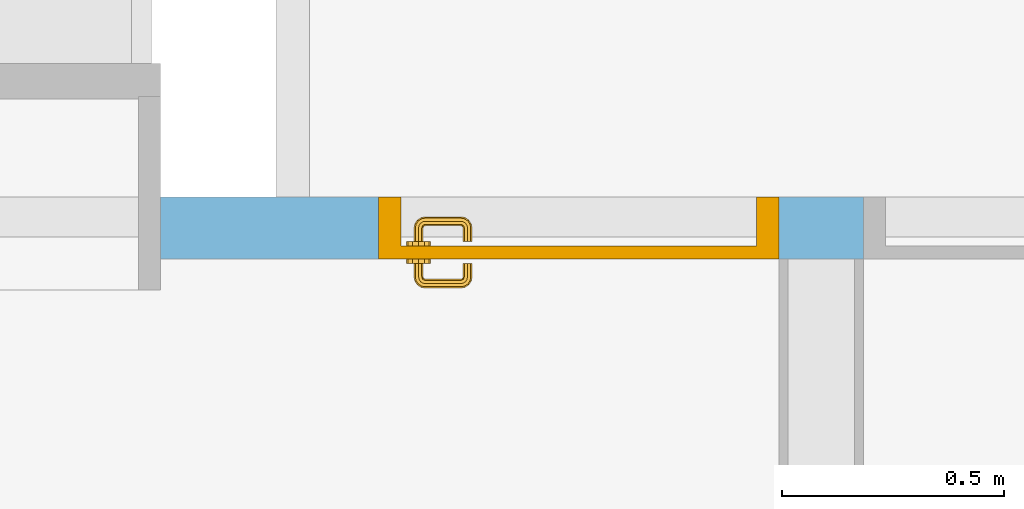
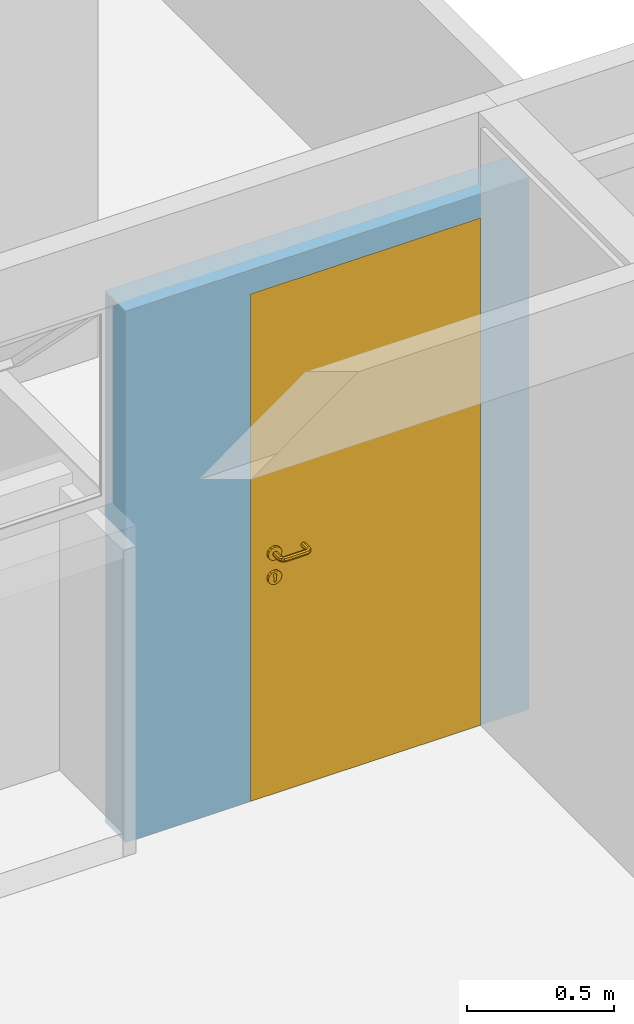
# One storey, part 8 of 22: 1 door, 1 opening, plus 1 element that does not belong to this part.
"""IFC2X3 building model written with IfcOpenShell, lengths in millimetres."""

from ifc_helpers import new_model, si_unit, direction, frame, frame_2d, origin_with_axes, origin_2d_with_axis, place, context, subcontext, project, spatial, polyline, rectangle, outline, extrude, open_shell, faceted_brep, surface_model, source, transform, mapped, material, layer, layer_set, layer_usage, type_object, type_shapes, element, fill, save


model = new_model("IFC2X3")

# Units and contexts
model_context = context("Model", 3, precision=1e-05, world=origin_with_axes(), true_north=direction((0.0, 1.0)))
body_context = subcontext(model_context, "Body", "Model", "MODEL_VIEW")
ifc_project = project(units=[si_unit("LENGTHUNIT", "METRE", prefix="MILLI"), si_unit("AREAUNIT", "SQUARE_METRE"), si_unit("VOLUMEUNIT", "CUBIC_METRE"), si_unit("PLANEANGLEUNIT", "RADIAN"), si_unit("TIMEUNIT", "SECOND"), si_unit("MASSUNIT", "GRAM")], contexts=[model_context])

# Site, building, storey
site_placement = place(None, origin_with_axes())
site = spatial("IfcSite", under=ifc_project, at=site_placement, Name="Site", CompositionType="ELEMENT")
building_placement = place(site_placement, origin_with_axes())
building = spatial("IfcBuilding", under=site, at=building_placement, Name="Construção", CompositionType="COMPLEX")
storey_placement = place(building_placement, frame((0.0, 0.0, 2650.0), z_axis=(0.0, 0.0, 1.0), x_axis=(1.0, 0.0, 0.0)))
storey = spatial("IfcBuildingStorey", under=building, at=storey_placement, Name="Segundo Pavimento", CompositionType="COMPLEX", Elevation=2650.0)

# Wall, opening, door
ifc_material = material(Name="GENÉRICO - VEDAÇÃO EXTERNA")
ifc_layer = layer(ifc_material, 140.0)
ifc_layer_set = layer_set([ifc_layer], Name="GENÉRICO - VEDAÇÃO EXTERNA 140")
ifc_layer_usage = layer_usage(ifc_layer_set, "AXIS2", "POSITIVE", 0.0)
wall_type = type_object("IfcWallType", Name="GENÉRICO - VEDAÇÃO EXTERNA 140", PredefinedType="STANDARD", material=ifc_layer_set)
wall_placement = place(storey_placement, frame((5900.0, 8125.0, 0.0), z_axis=(0.0, 0.0, 1.0), x_axis=(1.0, 0.0, 0.0)))
wall = element("IfcWallStandardCase", 1, at=wall_placement, inside=storey, type_object=wall_type, material=ifc_layer_usage, Name="APTO5-PAREDE-004", context=body_context, shape_type="SweptSolid", body=[
    extrude(rectangle(XDim=1580.0, YDim=140.0, at=origin_2d_with_axis()), frame((790.0, 70.0, 0.0), z_axis=(0.0, 0.0, 1.0), x_axis=(1.0, 0.0, 0.0)), (0.0, 0.0, 1.0), 2200.0),
])
opening_placement = place(wall_placement, frame((490.0, 0.0, 0.0), z_axis=(0.0, 0.0, 1.0), x_axis=(1.0, 0.0, 0.0)))
opening = element("IfcOpeningElement", 2, at=opening_placement, cuts=wall, ObjectType="Opening", context=body_context, shape_type="SweptSolid", body=[
    extrude(outline(polyline([(450.0, 1050.0), (450.0, -1050.0), (-450.0, -1050.0), (-450.0, 1050.0), (450.0, 1050.0)])), frame((450.0, -140.0, 1050.0), z_axis=(0.0, 1.0, 0.0), x_axis=(1.0, 0.0, 0.0)), (0.0, 0.0, 1.0), 420.0),
])
door_style = type_object("IfcDoorStyle", Name="Porta 25", ConstructionType="NOTDEFINED", OperationType="SINGLE_SWING_LEFT", ParameterTakesPrecedence=False, Sizeable=False)
shared_shape_1 = source(origin_with_axes(), body_context, "Body", "SolidModel", [
    extrude(outline(polyline([(9.999999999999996, -26.66666666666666), (9.999999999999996, -56.66666666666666), (-30.0, -56.66666666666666), (-30.0, 83.33333333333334), (20.0, 83.33333333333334), (20.0, -26.66666666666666), (9.999999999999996, -26.66666666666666)])), frame((30.0, 0.0, -56.66666666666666), z_axis=(0.0, 1.0, 0.0), x_axis=(1.0, 0.0, 0.0)), (0.0, 0.0, 1.0), 2050.0),
])
shared_shape_2 = source(origin_with_axes(), body_context, "Body", "SolidModel", [
    extrude(outline(polyline([(-10.0, -26.66666666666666), (-20.0, -26.66666666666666), (-20.0, 83.33333333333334), (30.0, 83.33333333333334), (30.0, -56.66666666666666), (-10.0, -56.66666666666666), (-10.0, -26.66666666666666)])), frame((870.0, 0.0, -56.66666666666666), z_axis=(0.0, 1.0, 0.0), x_axis=(1.0, 0.0, 0.0)), (0.0, 0.0, 1.0), 2050.0),
])
shared_shape_3 = source(origin_with_axes(), body_context, "Body", "SolidModel", [
    faceted_brep([(900.0, 2050.0, -140.0), (0.0, 2050.0, -140.0), (0.0, 2100.0, -140.0), (900.0, 2100.0, -140.0), (859.9999999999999, 2050.0, -29.99999999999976), (859.9999999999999, 2060.0, -29.99999999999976), (39.99999999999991, 2060.0, -29.99999999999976), (39.99999999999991, 2050.0, -29.99999999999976), (39.99999999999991, 2050.0, 0.0), (39.99999999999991, 2060.0, 0.0), (0.0, 2050.0, 0.0), (0.0, 2100.0, 0.0), (899.9999999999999, 2100.0, 0.0), (899.9999999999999, 2050.0, 0.0), (859.9999999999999, 2050.0, 0.0), (859.9999999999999, 2060.0, 0.0)], [[[0, 1, 2, 3]], [[4, 5, 6, 7]], [[8, 7, 6, 9]], [[10, 11, 2, 1]], [[11, 12, 3, 2]], [[12, 13, 0, 3]], [[4, 7, 8, 10, 1, 0, 13, 14]], [[15, 5, 4, 14]], [[9, 6, 5, 15]], [[9, 15, 14, 13, 12, 11, 10, 8]]]),
])
shared_shape_4 = source(origin_with_axes(), body_context, "Body", "SolidModel", [
    extrude(outline(polyline([(0.0, 27.00000000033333), (13.49999999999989, 23.38268590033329), (23.38268590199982, 13.50000000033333), (26.99999999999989, 3.333298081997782e-10), (23.38268590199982, -13.49999999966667), (13.49999999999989, -23.38268590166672), (0.0, -26.99999999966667), (-13.50000000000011, -23.38268590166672), (-23.38268590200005, -13.49999999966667), (-27.0, 3.333298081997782e-10), (-23.38268590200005, 13.50000000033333), (-13.50000000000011, 23.38268590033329), (0.0, 27.00000000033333)])), frame((90.0, 999.9999999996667, -40.0), z_axis=(0.0, 0.0, 1.0), x_axis=(1.0, 0.0, 0.0)), (0.0, 0.0, 1.0), 10.0),
])
shared_shape_5 = source(origin_with_axes(), body_context, "Body", "SolidModel", [
    faceted_brep([(63.0, 900.0, -30.0), (63.0, 900.0, -40.0), (66.61731409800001, 886.5, -40.0), (66.61731409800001, 886.5, -30.0), (64.0, 900.0, -39.0), (64.0, 900.0, -30.0), (67.48333950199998, 887.0, -30.0), (67.48333950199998, 887.0, -39.0), (67.48333950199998, 913.0, -39.0), (67.48333950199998, 913.0, -30.0), (77.0, 877.483339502, -30.0), (77.0, 877.483339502, -39.0), (77.0, 922.516660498, -39.0), (77.0, 922.516660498, -30.0), (76.5, 876.617314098, -40.0), (76.5, 876.617314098, -30.0), (66.61731409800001, 913.5, -30.0), (66.61731409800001, 913.5, -40.0), (90.0, 874.0, -30.0), (90.0, 874.0, -39.0), (103.0, 922.516660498, -30.0), (112.516660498, 913.0, -30.0), (116.0, 900.0, -30.0), (112.516660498, 887.0, -30.0), (103.0, 877.483339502, -30.0), (90.0, 926.0, -30.0), (117.0, 900.0, -30.0), (113.382685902, 913.5, -30.0), (103.5, 923.382685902, -30.0), (90.0, 927.0, -30.0), (76.5, 923.382685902, -30.0), (90.0, 873.0, -30.0), (103.5, 876.617314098, -30.0), (113.382685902, 886.5, -30.0), (90.0, 873.0, -40.0), (112.516660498, 887.0, -39.0), (116.0, 900.0, -39.0), (112.516660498, 913.0, -39.0), (103.5, 876.617314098, -40.0), (103.0, 877.483339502, -39.0), (113.382685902, 886.5, -40.0), (117.0, 900.0, -40.0), (90.0, 926.0, -39.0), (86.46446609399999, 883.964466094, -40.0), (85.0, 887.5, -40.0), (85.0, 887.5, -39.0), (86.46446609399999, 883.964466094, -39.0), (90.0, 882.5, -40.0), (90.0, 882.5, -39.0), (76.5, 923.382685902, -40.0), (90.0, 927.0, -40.0), (85.0, 904.4, -39.0), (85.0, 904.4, -40.0), (82.53216922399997, 909.692280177, -40.0), (82.53216922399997, 909.692280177, -39.0), (103.0, 922.516660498, -39.0), (103.5, 923.382685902, -40.0), (95.0, 887.5, -40.0), (93.53553390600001, 883.964466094, -40.0), (93.53553390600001, 883.964466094, -39.0), (95.0, 887.5, -39.0), (113.382685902, 913.5, -40.0), (84.62481768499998, 915.143815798, -40.0), (84.62481768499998, 915.143815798, -39.0), (83.279754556, 911.639806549, -39.0), (83.279754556, 911.639806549, -40.0), (90.0, 917.425445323, -40.0), (90.0, 917.425445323, -39.0), (97.46783077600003, 909.692280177, -39.0), (95.0, 904.4, -39.0), (95.37518231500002, 915.143815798, -39.0), (96.720245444, 911.639806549, -39.0), (95.37518231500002, 915.143815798, -40.0), (95.0, 904.4, -40.0), (97.46783077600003, 909.692280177, -40.0), (96.720245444, 911.639806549, -40.0)], [[[0, 1, 2, 3]], [[4, 5, 6, 7]], [[8, 9, 5, 4]], [[7, 6, 10, 11]], [[12, 13, 9, 8]], [[3, 2, 14, 15]], [[16, 17, 1, 0]], [[11, 10, 18, 19]], [[20, 21, 22, 23, 24, 18, 10, 6, 5, 9, 13, 25], [26, 27, 28, 29, 30, 16, 0, 3, 15, 31, 32, 33]], [[15, 14, 34, 31]], [[35, 23, 22, 36]], [[36, 22, 21, 37]], [[31, 34, 38, 32]], [[39, 24, 23, 35]], [[32, 38, 40, 33]], [[33, 40, 41, 26]], [[42, 25, 13, 12]], [[43, 44, 45, 46]], [[47, 43, 46, 48]], [[30, 49, 17, 16]], [[29, 50, 49, 30]], [[19, 18, 24, 39]], [[51, 45, 44, 52]], [[53, 54, 51, 52]], [[37, 21, 20, 55]], [[28, 56, 50, 29]], [[57, 58, 59, 60]], [[58, 47, 48, 59]], [[55, 20, 25, 42]], [[26, 41, 61, 27]], [[62, 63, 64, 54, 53, 65]], [[66, 67, 63, 62]], [[27, 61, 56, 28]], [[36, 37, 55, 42, 12, 8, 4, 7, 11, 19, 39, 35], [68, 69, 60, 59, 48, 46, 45, 51, 54, 64, 63, 67, 70, 71]], [[72, 70, 67, 66]], [[73, 69, 68, 74]], [[73, 57, 60, 69]], [[74, 68, 71, 70, 72, 75]], [[50, 56, 61, 41, 40, 38, 34, 14, 2, 1, 17, 49], [74, 75, 72, 66, 62, 65, 53, 52, 44, 43, 47, 58, 57, 73]]], outer=[[True], [True], [True], [True], [True], [True], [True], [True], [False, True], [True], [True], [True], [True], [True], [True], [True], [True], [True], [True], [True], [True], [True], [True], [True], [True], [True], [True], [True], [True], [True], [True], [True], [True], [True, False], [True], [True], [True], [True], [True, False]]),
])
shared_shape_6 = source(origin_with_axes(), body_context, "Body", "SurfaceModel", [
    surface_model("IfcShellBasedSurfaceModel", [(192.928932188, 992.928932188, -69.303560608), (192.928932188, 992.928932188, -40.0), (190.0, 1000.0, -40.0), (190.0, 1000.0, -69.0150859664), (192.928932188, 1007.07106781, -40.0), (192.928932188, 1007.07106781, -69.303560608), (200.0, 1010.0, -40.0), (200.0, 1010.0, -70.0), (192.197392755, 1007.07106781, -72.9812576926), (198.858192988, 1010.0, -75.74025148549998), (207.071067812, 1007.07106781, -70.696439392), (205.518993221, 1007.07106781, -78.49924527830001), (186.838445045, 1000.0, -74.43839896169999), (188.397003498, 1000.0, -73.39700349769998), (190.508645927, 1007.07106781, -75.5086459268), (187.981257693, 1007.07106781, -77.19739275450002), (195.606601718, 1010.0, -80.6066017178), (189.438398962, 1000.0, -71.83844504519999), (187.981257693, 992.928932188, -77.19739275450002), (190.508645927, 992.928932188, -75.5086459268), (192.197392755, 992.928932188, -72.9812576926), (200.0, 990.0, -70.0), (200.0, 990.0, -40.0), (198.858192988, 990.0, -75.74025148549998), (207.071067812, 1007.07106781, -40.0), (207.071067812, 992.928932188, -70.696439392), (207.071067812, 992.928932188, -40.0), (210.0, 1000.0, -40.0), (210.0, 1000.0, -70.9849140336), (195.606601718, 990.0, -80.6066017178), (205.518993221, 992.928932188, -78.49924527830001), (208.277987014, 1000.0, -79.6420579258), (105.696439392, 992.928932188, -77.92893218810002), (184.303560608, 992.928932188, -77.92893218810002), (184.015085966, 1000.0, -75.0), (105.984914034, 1000.0, -75.0), (184.303560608, 1007.07106781, -77.92893218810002), (190.740251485, 1010.0, -83.8581929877), (185.0, 1010.0, -85.0), (105.696439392, 1007.07106781, -77.92893218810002), (105.0, 1010.0, -85.0), (193.499245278, 1007.07106781, -90.51899322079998), (185.696439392, 1007.07106781, -92.07106781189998), (200.704557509, 1007.07106781, -85.70455750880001), (202.816199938, 1000.0, -87.8161999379), (200.704557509, 992.928932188, -85.70455750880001), (194.642057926, 1000.0, -93.2779870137), (190.740251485, 990.0, -83.8581929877), (103.161554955, 1000.0, -74.43839896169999), (102.018742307, 1007.07106781, -77.19739275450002), (185.0, 990.0, -85.0), (193.499245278, 992.928932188, -90.51899322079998), (102.018742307, 992.928932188, -77.19739275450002), (96.50075472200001, 992.928932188, -90.51899322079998), (104.303560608, 992.928932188, -92.07106781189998), (105.0, 990.0, -85.0), (99.25974851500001, 990.0, -83.8581929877), (185.696439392, 992.928932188, -92.07106781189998), (185.984914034, 1000.0, -95.0), (104.015085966, 1000.0, -95.0), (104.303560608, 1007.07106781, -92.07106781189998), (96.50075472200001, 1007.07106781, -90.51899322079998), (95.357942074, 1000.0, -93.2779870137), (99.25974851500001, 1010.0, -83.8581929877), (101.602996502, 1000.0, -73.39700349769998), (99.491354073, 1007.07106781, -75.5086459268), (94.39339828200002, 1010.0, -80.6066017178), (100.561601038, 1000.0, -71.83844504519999), (97.80260724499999, 1007.07106781, -72.9812576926), (99.491354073, 992.928932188, -75.5086459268), (97.80260724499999, 992.928932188, -72.9812576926), (94.39339828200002, 990.0, -80.6066017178), (89.29544249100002, 1007.07106781, -85.70455750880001), (91.14180701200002, 1010.0, -75.74025148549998), (87.18380006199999, 1000.0, -87.8161999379), (89.29544249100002, 992.928932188, -85.70455750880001), (84.48100677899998, 1007.07106781, -78.49924527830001), (81.72201298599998, 1000.0, -79.6420579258), (97.07106781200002, 1007.07106781, -69.303560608), (90.0, 1010.0, -70.0), (100.0, 1000.0, -69.0150859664), (84.48100677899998, 992.928932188, -78.49924527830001), (91.14180701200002, 990.0, -75.74025148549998), (100.0, 1000.0, -40.0), (97.07106781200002, 1007.07106781, -40.0), (97.07106781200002, 992.928932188, -69.303560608), (97.07106781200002, 992.928932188, -40.0), (90.0, 990.0, -70.0), (90.0, 990.0, -40.0), (82.92893218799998, 992.928932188, -70.696439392), (82.92893218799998, 1007.07106781, -70.696439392), (90.0, 1010.0, -40.0), (80.0, 1000.0, -70.9849140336), (82.92893218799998, 1007.07106781, -40.0), (82.92893218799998, 992.928932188, -40.0), (80.0, 1000.0, -40.0)], [open_shell([[[0, 1, 2, 3]], [[3, 2, 4, 5]], [[5, 4, 6, 7]], [[8, 5, 7, 9]], [[9, 7, 10, 11]], [[12, 13, 14, 15]], [[14, 8, 9, 16]], [[17, 3, 5, 8]], [[18, 19, 13, 12]], [[13, 17, 8, 14]], [[20, 0, 3, 17]], [[21, 22, 1, 0]], [[19, 20, 17, 13]], [[23, 21, 0, 20]], [[7, 6, 24, 10]], [[25, 26, 22, 21]], [[27, 24, 6, 4, 2, 1, 22, 26]], [[10, 24, 27, 28]], [[29, 23, 20, 19]], [[30, 25, 21, 23]], [[28, 27, 26, 25]], [[11, 10, 28, 31]], [[32, 33, 34, 35]], [[34, 12, 15, 36]], [[36, 15, 37, 38]], [[35, 34, 36, 39]], [[39, 36, 38, 40]], [[38, 37, 41, 42]], [[16, 9, 11, 43]], [[15, 14, 16, 37]], [[31, 28, 25, 30]], [[43, 11, 31, 44]], [[37, 16, 43, 41]], [[44, 31, 30, 45]], [[41, 43, 44, 46]], [[45, 30, 23, 29]], [[33, 18, 12, 34]], [[47, 29, 19, 18]], [[48, 35, 39, 49]], [[50, 47, 18, 33]], [[51, 45, 29, 47]], [[52, 32, 35, 48]], [[53, 54, 55, 56]], [[55, 50, 33, 32]], [[57, 51, 47, 50]], [[46, 44, 45, 51]], [[54, 57, 50, 55]], [[58, 46, 51, 57]], [[59, 58, 57, 54]], [[42, 41, 46, 58]], [[60, 42, 58, 59]], [[61, 60, 59, 62]], [[40, 38, 42, 60]], [[49, 39, 40, 63]], [[64, 48, 49, 65]], [[63, 40, 60, 61]], [[65, 49, 63, 66]], [[67, 64, 65, 68]], [[69, 52, 48, 64]], [[56, 55, 32, 52]], [[70, 69, 64, 67]], [[71, 56, 52, 69]], [[66, 63, 61, 72]], [[68, 65, 66, 73]], [[62, 59, 54, 53]], [[72, 61, 62, 74]], [[74, 62, 53, 75]], [[73, 66, 72, 76]], [[76, 72, 74, 77]], [[78, 68, 73, 79]], [[80, 67, 68, 78]], [[75, 53, 56, 71]], [[77, 74, 75, 81]], [[81, 75, 71, 82]], [[83, 80, 78, 84]], [[85, 70, 67, 80]], [[82, 71, 69, 70]], [[86, 85, 80, 83]], [[87, 82, 70, 85]], [[88, 87, 85, 86]], [[89, 81, 82, 87]], [[79, 73, 76, 90]], [[84, 78, 79, 91]], [[90, 76, 77, 92]], [[91, 79, 90, 93]], [[94, 89, 87, 88]], [[92, 77, 81, 89]], [[93, 90, 92, 95]], [[95, 92, 89, 94]]])]),
])
shared_shape_7 = source(origin_with_axes(), body_context, "Body", "SolidModel", [
    extrude(outline(polyline([(0.0, 27.00000000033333), (13.49999999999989, 23.38268590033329), (23.38268590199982, 13.50000000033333), (26.99999999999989, 3.333298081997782e-10), (23.38268590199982, -13.49999999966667), (13.49999999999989, -23.38268590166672), (0.0, -26.99999999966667), (-13.50000000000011, -23.38268590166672), (-23.38268590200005, -13.49999999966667), (-27.0, 3.333298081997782e-10), (-23.38268590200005, 13.50000000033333), (-13.50000000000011, 23.38268590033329), (0.0, 27.00000000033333)])), frame((90.0, 999.9999999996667, 0.0), z_axis=(0.0, 0.0, 1.0), x_axis=(1.0, 0.0, 0.0)), (0.0, 0.0, 1.0), 10.0),
])
shared_shape_8 = source(origin_with_axes(), body_context, "Body", "SolidModel", [
    faceted_brep([(66.61731409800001, 913.5, 10.0), (66.61731409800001, 913.5, 0.0), (63.0, 900.0, 0.0), (63.0, 900.0, 10.0), (66.61731409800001, 886.5, 0.0), (66.61731409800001, 886.5, 10.0), (64.0, 900.0, 9.0), (67.48333950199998, 887.0, 9.0), (67.48333950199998, 887.0, 0.0), (64.0, 900.0, 0.0), (76.5, 876.617314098, 0.0), (76.5, 876.617314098, 10.0), (77.0, 877.483339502, 9.0), (77.0, 877.483339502, 0.0), (67.48333950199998, 913.0, 9.0), (67.48333950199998, 913.0, 0.0), (90.0, 874.0, 9.0), (90.0, 874.0, 0.0), (90.0, 927.0, 0.0), (103.5, 923.382685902, 0.0), (113.382685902, 913.5, 0.0), (117.0, 900.0, 0.0), (113.382685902, 886.5, 0.0), (103.5, 876.617314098, 0.0), (90.0, 873.0, 0.0), (76.5, 923.382685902, 0.0), (112.516660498, 913.0, 0.0), (103.0, 922.516660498, 0.0), (90.0, 926.0, 0.0), (77.0, 922.516660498, 0.0), (103.0, 877.483339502, 0.0), (112.516660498, 887.0, 0.0), (116.0, 900.0, 0.0), (76.5, 923.382685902, 10.0), (90.0, 873.0, 10.0), (77.0, 922.516660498, 9.0), (103.0, 877.483339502, 9.0), (112.516660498, 887.0, 9.0), (82.53216922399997, 909.692280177, 9.0), (82.53216922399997, 909.692280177, 10.0), (85.0, 904.4, 10.0), (85.0, 904.4, 9.0), (85.0, 887.5, 10.0), (85.0, 887.5, 9.0), (86.46446609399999, 883.964466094, 9.0), (86.46446609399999, 883.964466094, 10.0), (90.0, 882.5, 9.0), (90.0, 882.5, 10.0), (93.53553390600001, 883.964466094, 9.0), (93.53553390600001, 883.964466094, 10.0), (116.0, 900.0, 9.0), (90.0, 926.0, 9.0), (90.0, 927.0, 10.0), (103.5, 923.382685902, 10.0), (117.0, 900.0, 10.0), (113.382685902, 913.5, 10.0), (113.382685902, 886.5, 10.0), (103.5, 876.617314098, 10.0), (95.0, 887.5, 9.0), (95.0, 887.5, 10.0), (112.516660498, 913.0, 9.0), (103.0, 922.516660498, 9.0), (90.0, 917.425445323, 9.0), (90.0, 917.425445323, 10.0), (84.62481768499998, 915.143815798, 10.0), (84.62481768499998, 915.143815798, 9.0), (83.279754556, 911.639806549, 10.0), (83.279754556, 911.639806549, 9.0), (95.37518231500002, 915.143815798, 9.0), (95.37518231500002, 915.143815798, 10.0), (97.46783077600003, 909.692280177, 10.0), (95.0, 904.4, 10.0), (96.720245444, 911.639806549, 10.0), (95.0, 904.4, 9.0), (97.46783077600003, 909.692280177, 9.0), (96.720245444, 911.639806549, 9.0)], [[[0, 1, 2, 3]], [[3, 2, 4, 5]], [[6, 7, 8, 9]], [[5, 4, 10, 11]], [[7, 12, 13, 8]], [[14, 6, 9, 15]], [[12, 16, 17, 13]], [[18, 19, 20, 21, 22, 23, 24, 10, 4, 2, 1, 25], [26, 27, 28, 29, 15, 9, 8, 13, 17, 30, 31, 32]], [[33, 25, 1, 0]], [[11, 10, 24, 34]], [[35, 14, 15, 29]], [[36, 37, 31, 30]], [[38, 39, 40, 41]], [[16, 36, 30, 17]], [[40, 42, 43, 41]], [[44, 43, 42, 45]], [[46, 44, 45, 47]], [[48, 46, 47, 49]], [[37, 50, 32, 31]], [[51, 35, 29, 28]], [[52, 18, 25, 33]], [[53, 19, 18, 52]], [[54, 21, 20, 55]], [[56, 22, 21, 54]], [[34, 24, 23, 57]], [[57, 23, 22, 56]], [[55, 20, 19, 53]], [[58, 48, 49, 59]], [[50, 60, 26, 32]], [[61, 51, 28, 27]], [[60, 61, 27, 26]], [[62, 63, 64, 65]], [[65, 64, 66, 39, 38, 67]], [[68, 69, 63, 62]], [[55, 53, 52, 33, 0, 3, 5, 11, 34, 57, 56, 54], [70, 71, 59, 49, 47, 45, 42, 40, 39, 66, 64, 63, 69, 72]], [[73, 71, 70, 74]], [[73, 58, 59, 71]], [[74, 70, 72, 69, 68, 75]], [[51, 61, 60, 50, 37, 36, 16, 12, 7, 6, 14, 35], [74, 75, 68, 62, 65, 67, 38, 41, 43, 44, 46, 48, 58, 73]]]),
])
shared_shape_9 = source(origin_with_axes(), body_context, "Body", "SurfaceModel", [
    surface_model("IfcShellBasedSurfaceModel", [(192.197392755, 1007.07106781, 42.9812576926), (198.858192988, 1010.0, 45.7402514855), (200.0, 1010.0, 40.0), (192.928932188, 1007.07106781, 39.303560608), (189.438398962, 1000.0, 41.8384450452), (190.0, 1000.0, 39.0150859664), (207.071067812, 1007.07106781, 40.696439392), (207.071067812, 1007.07106781, 10.0), (200.0, 1010.0, 10.0), (192.928932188, 1007.07106781, 10.0), (190.0, 1000.0, 10.0), (192.928932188, 992.928932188, 39.303560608), (192.928932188, 992.928932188, 10.0), (200.0, 990.0, 40.0), (200.0, 990.0, 10.0), (192.197392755, 992.928932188, 42.9812576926), (188.397003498, 1000.0, 43.3970034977), (190.508645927, 1007.07106781, 45.5086459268), (187.981257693, 1007.07106781, 47.1973927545), (190.740251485, 1010.0, 53.8581929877), (195.606601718, 1010.0, 50.6066017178), (193.499245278, 1007.07106781, 60.5189932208), (200.704557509, 1007.07106781, 55.7045575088), (205.518993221, 1007.07106781, 48.4992452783), (202.816199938, 1000.0, 57.8161999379), (208.277987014, 1000.0, 49.6420579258), (210.0, 1000.0, 40.9849140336), (210.0, 1000.0, 10.0), (207.071067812, 992.928932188, 10.0), (207.071067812, 992.928932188, 40.696439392), (205.518993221, 992.928932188, 48.4992452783), (198.858192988, 990.0, 45.7402514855), (184.303560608, 1007.07106781, 47.9289321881), (185.0, 1010.0, 55.0), (184.015085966, 1000.0, 45.0), (186.838445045, 1000.0, 44.4383989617), (105.696439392, 1007.07106781, 47.9289321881), (105.0, 1010.0, 55.0), (105.984914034, 1000.0, 45.0), (200.704557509, 992.928932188, 55.7045575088), (195.606601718, 990.0, 50.6066017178), (190.508645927, 992.928932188, 45.5086459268), (187.981257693, 992.928932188, 47.1973927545), (190.740251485, 990.0, 53.8581929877), (184.303560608, 992.928932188, 47.9289321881), (185.696439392, 1007.07106781, 62.0710678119), (194.642057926, 1000.0, 63.2779870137), (193.499245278, 992.928932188, 60.5189932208), (185.0, 990.0, 55.0), (105.696439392, 992.928932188, 47.9289321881), (103.161554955, 1000.0, 44.4383989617), (102.018742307, 1007.07106781, 47.1973927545), (99.25974851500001, 1010.0, 53.8581929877), (104.303560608, 1007.07106781, 62.0710678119), (185.984914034, 1000.0, 65.0), (185.696439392, 992.928932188, 62.0710678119), (105.0, 990.0, 55.0), (102.018742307, 992.928932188, 47.1973927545), (101.602996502, 1000.0, 43.3970034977), (99.491354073, 1007.07106781, 45.5086459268), (94.39339828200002, 1010.0, 50.6066017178), (96.50075472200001, 1007.07106781, 60.5189932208), (94.39339828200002, 990.0, 50.6066017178), (99.491354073, 992.928932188, 45.5086459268), (99.25974851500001, 990.0, 53.8581929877), (91.14180701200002, 990.0, 45.7402514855), (97.80260724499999, 992.928932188, 42.9812576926), (100.561601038, 1000.0, 41.8384450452), (97.80260724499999, 1007.07106781, 42.9812576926), (100.0, 1000.0, 39.0150859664), (97.07106781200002, 1007.07106781, 39.303560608), (97.07106781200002, 992.928932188, 39.303560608), (104.015085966, 1000.0, 65.0), (104.303560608, 992.928932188, 62.0710678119), (95.357942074, 1000.0, 63.2779870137), (96.50075472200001, 992.928932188, 60.5189932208), (89.29544249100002, 992.928932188, 55.7045575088), (87.18380006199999, 1000.0, 57.8161999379), (100.0, 1000.0, 10.0), (97.07106781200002, 1007.07106781, 10.0), (90.0, 1010.0, 40.0), (91.14180701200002, 1010.0, 45.7402514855), (90.0, 1010.0, 10.0), (89.29544249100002, 1007.07106781, 55.7045575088), (84.48100677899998, 1007.07106781, 48.4992452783), (82.92893218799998, 1007.07106781, 40.696439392), (81.72201298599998, 1000.0, 49.6420579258), (82.92893218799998, 1007.07106781, 10.0), (97.07106781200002, 992.928932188, 10.0), (90.0, 990.0, 10.0), (90.0, 990.0, 40.0), (84.48100677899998, 992.928932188, 48.4992452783), (80.0, 1000.0, 40.9849140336), (82.92893218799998, 992.928932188, 40.696439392), (80.0, 1000.0, 10.0), (82.92893218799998, 992.928932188, 10.0)], [open_shell([[[0, 1, 2, 3]], [[4, 0, 3, 5]], [[2, 6, 7, 8]], [[3, 2, 8, 9]], [[5, 3, 9, 10]], [[11, 5, 10, 12]], [[13, 11, 12, 14]], [[15, 4, 5, 11]], [[16, 17, 0, 4]], [[18, 19, 20, 17]], [[17, 20, 1, 0]], [[19, 21, 22, 20]], [[20, 22, 23, 1]], [[1, 23, 6, 2]], [[22, 24, 25, 23]], [[6, 26, 27, 7]], [[27, 28, 14, 12, 10, 9, 8, 7]], [[23, 25, 26, 6]], [[26, 29, 28, 27]], [[25, 30, 29, 26]], [[29, 13, 14, 28]], [[30, 31, 13, 29]], [[32, 33, 19, 18]], [[34, 32, 18, 35]], [[36, 37, 33, 32]], [[38, 36, 32, 34]], [[35, 18, 17, 16]], [[39, 40, 31, 30]], [[31, 15, 11, 13]], [[41, 16, 4, 15]], [[40, 41, 15, 31]], [[42, 35, 16, 41]], [[43, 42, 41, 40]], [[44, 34, 35, 42]], [[33, 45, 21, 19]], [[21, 46, 24, 22]], [[24, 39, 30, 25]], [[46, 47, 39, 24]], [[47, 43, 40, 39]], [[48, 44, 42, 43]], [[49, 38, 34, 44]], [[50, 51, 36, 38]], [[51, 52, 37, 36]], [[37, 53, 45, 33]], [[45, 54, 46, 21]], [[55, 48, 43, 47]], [[56, 49, 44, 48]], [[57, 50, 38, 49]], [[58, 59, 51, 50]], [[59, 60, 52, 51]], [[52, 61, 53, 37]], [[62, 63, 57, 64]], [[65, 66, 63, 62]], [[63, 58, 50, 57]], [[67, 68, 59, 58]], [[66, 67, 58, 63]], [[69, 70, 68, 67]], [[71, 69, 67, 66]], [[53, 72, 54, 45]], [[54, 55, 47, 46]], [[73, 56, 48, 55]], [[64, 57, 49, 56]], [[61, 74, 72, 53]], [[72, 73, 55, 54]], [[75, 64, 56, 73]], [[74, 75, 73, 72]], [[76, 62, 64, 75]], [[77, 76, 75, 74]], [[78, 79, 70, 69]], [[70, 80, 81, 68]], [[79, 82, 80, 70]], [[68, 81, 60, 59]], [[60, 83, 61, 52]], [[81, 84, 83, 60]], [[83, 77, 74, 61]], [[80, 85, 84, 81]], [[84, 86, 77, 83]], [[82, 87, 85, 80]], [[88, 78, 69, 71]], [[89, 88, 71, 90]], [[91, 65, 62, 76]], [[90, 71, 66, 65]], [[85, 92, 86, 84]], [[86, 91, 76, 77]], [[93, 90, 65, 91]], [[87, 94, 92, 85]], [[92, 93, 91, 86]], [[95, 89, 90, 93]], [[94, 95, 93, 92]]])]),
])
shared_shape_10 = source(origin_with_axes(), body_context, "Body", "SolidModel", [
    extrude(rectangle(XDim=2060.0, YDim=820.0, at=frame_2d((0.0, 0.0), x_axis=(0.0, 1.0))), frame((449.9999999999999, 1030.0, -29.99999999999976), z_axis=(0.0, 0.0, 1.0), x_axis=(1.0, 0.0, 0.0)), (0.0, 0.0, 1.0), 30.0),
])
shared_shape_11 = source(origin_with_axes(), body_context, "Body", "MappedRepresentation", [
    mapped(shared_shape_1, transform((0.0, 0.0, 0.0))),
    mapped(shared_shape_2, transform((0.0, 0.0, 0.0))),
    mapped(shared_shape_3, transform((0.0, 0.0, 0.0))),
    mapped(shared_shape_4, transform((0.0, 0.0, 0.0))),
    mapped(shared_shape_5, transform((0.0, 0.0, 0.0))),
    mapped(shared_shape_6, transform((0.0, 0.0, 0.0))),
    mapped(shared_shape_7, transform((0.0, 0.0, 0.0))),
    mapped(shared_shape_8, transform((0.0, 0.0, 0.0))),
    mapped(shared_shape_9, transform((0.0, 0.0, 0.0))),
    mapped(shared_shape_10, transform((0.0, 0.0, 0.0))),
])
type_shapes(door_style, [shared_shape_11])
door_placement = place(opening_placement, origin_with_axes())
door = element("IfcDoor", 3, at=door_placement, inside=storey, type_object=door_style, Name="APTO5-PORTA-004", OverallHeight=2100.0, OverallWidth=900.0, context=body_context, shape_type="MappedRepresentation", body=[
    mapped(shared_shape_11, transform((0.0, 0.0, 0.0), x_axis=(1.0, 0.0, 0.0), y_axis=(0.0, 0.0, 1.0), z_axis=(0.0, -1.0, 0.0), scale=1.0)),
])
fill(opening, door)

save(model, "model.ifc")
